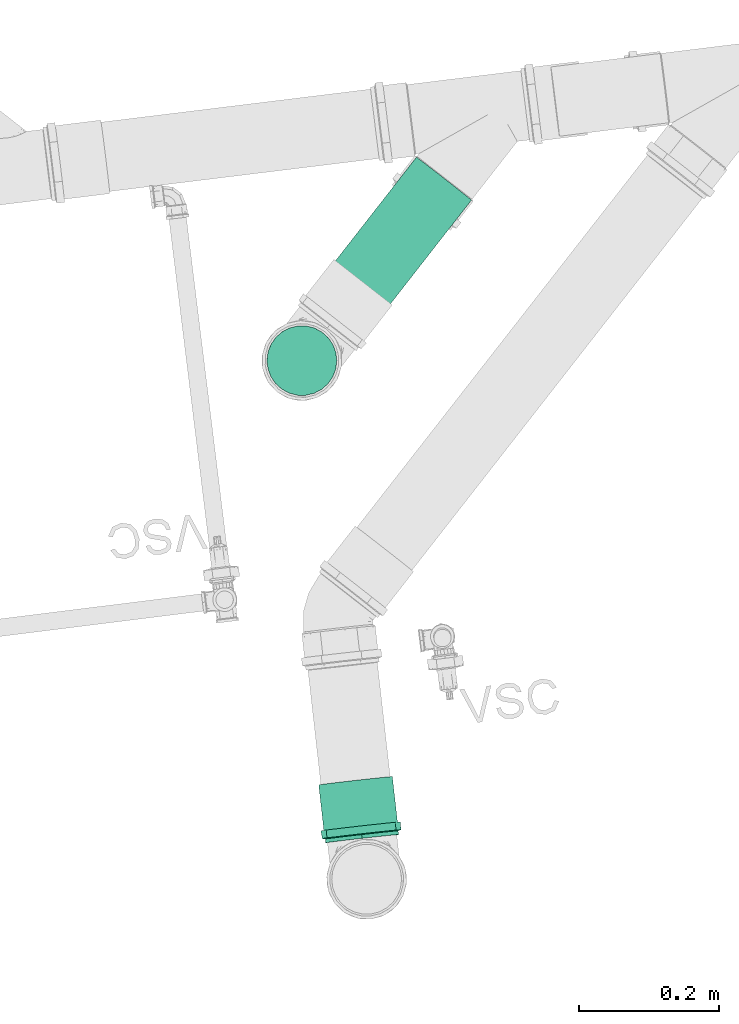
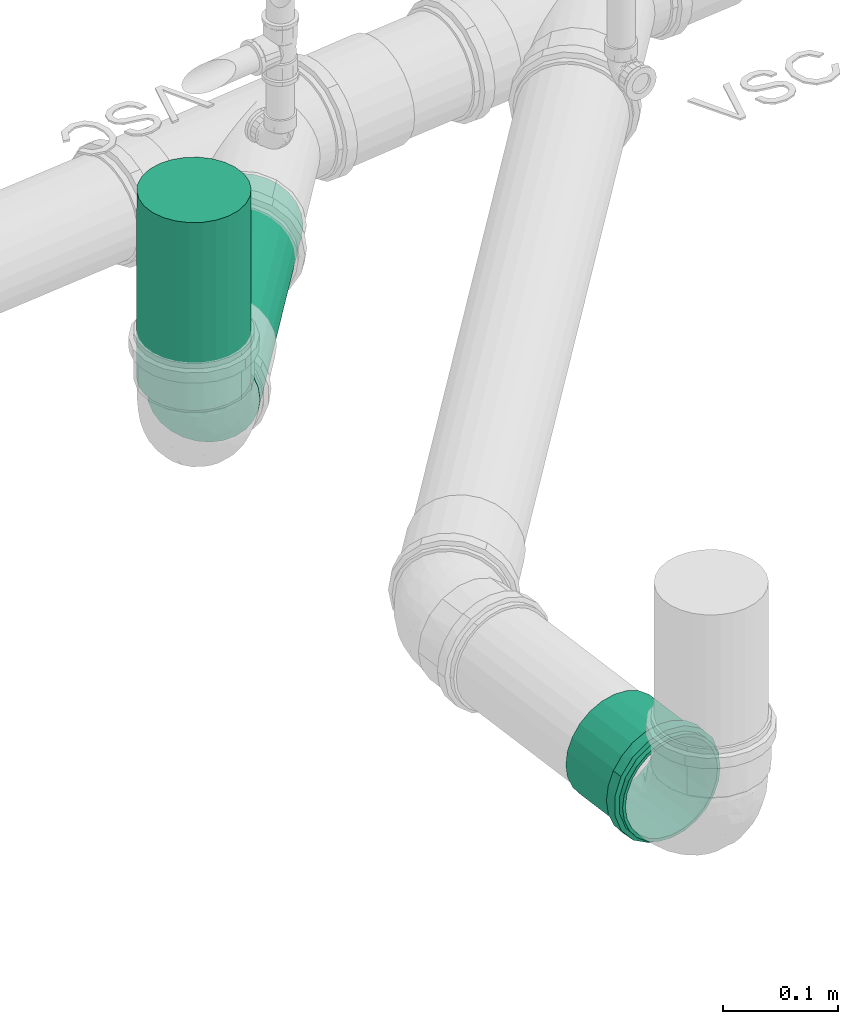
# One storey, part 27 of 97: 2 flow segments, 1 flow fitting.
"""IFC2X3 building model written with IfcOpenShell, lengths in centimetres."""

from ifc_helpers import new_model, entity, si_unit, converted_unit, derived_unit, direction, frame, origin, origin_2d_with_axis, place, context, subcontext, project, spatial, circle, extrude, faceted_brep, source, transform, mapped, material, type_object, type_shapes, element, save


model = new_model("IFC2X3")

# Units and contexts
model_context = context("Model", 3, precision=0.001, world=origin(), true_north=direction((6.12303176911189e-17, 1.0)))
body_context = subcontext(model_context, "Body", "Model", "MODEL_VIEW")
ifc_project = project(units=[si_unit("LENGTHUNIT", "METRE", prefix="CENTI"), si_unit("AREAUNIT", "SQUARE_METRE"), si_unit("VOLUMEUNIT", "CUBIC_METRE"), converted_unit("PLANEANGLEUNIT", "DEGREE", entity("IfcRatioMeasure", 0.0174532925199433), si_unit("PLANEANGLEUNIT", "RADIAN"), dimensions=[0, 0, 0, 0, 0, 0, 0]), si_unit("MASSUNIT", "GRAM", prefix="KILO"), derived_unit("MASSDENSITYUNIT", [(si_unit("MASSUNIT", "GRAM", prefix="KILO"), 1), (si_unit("LENGTHUNIT", "METRE"), -3)]), derived_unit("MOMENTOFINERTIAUNIT", [(si_unit("LENGTHUNIT", "METRE"), 4)]), si_unit("TIMEUNIT", "SECOND"), si_unit("FREQUENCYUNIT", "HERTZ"), si_unit("THERMODYNAMICTEMPERATUREUNIT", "DEGREE_CELSIUS"), derived_unit("THERMALTRANSMITTANCEUNIT", [(si_unit("MASSUNIT", "GRAM", prefix="KILO"), 1), (si_unit("THERMODYNAMICTEMPERATUREUNIT", "KELVIN"), -1), (si_unit("TIMEUNIT", "SECOND"), -3)]), derived_unit("VOLUMETRICFLOWRATEUNIT", [(si_unit("LENGTHUNIT", "METRE"), 3), (si_unit("TIMEUNIT", "SECOND"), -1)]), si_unit("ELECTRICCURRENTUNIT", "AMPERE"), si_unit("ELECTRICVOLTAGEUNIT", "VOLT"), si_unit("POWERUNIT", "WATT"), si_unit("FORCEUNIT", "NEWTON", prefix="KILO"), si_unit("ILLUMINANCEUNIT", "LUX"), si_unit("LUMINOUSFLUXUNIT", "LUMEN"), si_unit("LUMINOUSINTENSITYUNIT", "CANDELA"), derived_unit("USERDEFINED", [(si_unit("MASSUNIT", "GRAM", prefix="KILO"), -1), (si_unit("LENGTHUNIT", "METRE"), -2), (si_unit("TIMEUNIT", "SECOND"), 3), (si_unit("LUMINOUSFLUXUNIT", "LUMEN"), 1)]), derived_unit("LINEARVELOCITYUNIT", [(si_unit("LENGTHUNIT", "METRE"), 1), (si_unit("TIMEUNIT", "SECOND"), -1)]), si_unit("PRESSUREUNIT", "PASCAL"), derived_unit("USERDEFINED", [(si_unit("LENGTHUNIT", "METRE"), -2), (si_unit("MASSUNIT", "GRAM", prefix="KILO"), 1), (si_unit("TIMEUNIT", "SECOND"), -2)]), derived_unit("LINEARFORCEUNIT", [(si_unit("MASSUNIT", "GRAM", prefix="KILO"), 1), (si_unit("LENGTHUNIT", "METRE"), 1), (si_unit("TIMEUNIT", "SECOND"), -2), (si_unit("LENGTHUNIT", "METRE"), -1)]), derived_unit("PLANARFORCEUNIT", [(si_unit("MASSUNIT", "GRAM", prefix="KILO"), 1), (si_unit("LENGTHUNIT", "METRE"), 1), (si_unit("TIMEUNIT", "SECOND"), -2), (si_unit("LENGTHUNIT", "METRE"), -2)])], contexts=[model_context])

# Site, building, storey
site_placement = place(None, origin())
site = spatial("IfcSite", under=ifc_project, at=site_placement, Name="Default", CompositionType="ELEMENT")
building_placement = place(site_placement, origin())
building = spatial("IfcBuilding", under=site, at=building_placement, Name="HIDROSSANITÁRIO", CompositionType="ELEMENT")
storey_placement = place(building_placement, frame((0.0, 0.0, -260.0)))
storey = spatial("IfcBuildingStorey", under=building, at=storey_placement, Name="TÉRREO-HID", CompositionType="ELEMENT", Elevation=-260.0)

# Flow segments
pipe_segment_type = type_object("IfcPipeSegmentType", Name="Tipos de tubos:Tubo - Esgoto - Série Normal", PredefinedType="NOTDEFINED")
flow_segment_1_placement = place(storey_placement, origin())
element("IfcFlowSegment", 1, at=flow_segment_1_placement, inside=storey, type_object=pipe_segment_type, Name="Tipos de tubos:Tubo - Esgoto - Série Normal", ObjectType="Tipos de tubos:Tubo - Esgoto - Série Normal", context=body_context, shape_type="SweptSolid", body=[
    extrude(circle(Radius=5.0, at=origin_2d_with_axis()), frame((-1498.65445323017, 2953.8205376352, -30.0255531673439), z_axis=(9.37874120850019e-05, -7.32316891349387e-05, 0.999999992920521), x_axis=(0.999999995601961, 0.0, -9.37874123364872e-05)), (0.0, 0.0, 1.0), 20.0259195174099),
])
flow_segment_2_placement = place(storey_placement, origin())
element("IfcFlowSegment", 2, at=flow_segment_2_placement, inside=storey, type_object=pipe_segment_type, Name="Tipos de tubos:Tubo - Esgoto - Série Normal", ObjectType="Tipos de tubos:Tubo - Esgoto - Série Normal", context=body_context, shape_type="SweptSolid", body=[
    extrude(circle(Radius=5.0, at=origin_2d_with_axis()), frame((-1495.0233767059, 2958.47083690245, -35.9255531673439), z_axis=(0.615405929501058, 0.788146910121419, -0.00999950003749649), x_axis=(0.78818631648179, -0.615436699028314, 0.0)), (0.0, 0.0, 1.0), 27.1548516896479),
])

# Flow fitting
ifc_material = material(Name="PVC Branco")
pipe_fitting_type = type_object("IfcPipeFittingType", Name="Luva Simples para Conexão - Serie Normal - Esgoto - MEP - Tigre:Standard", PredefinedType="NOTDEFINED", material=ifc_material)
shared_shape = source(origin(), body_context, "Body", "Brep", [
    faceted_brep([(1.77700000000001, 2.8725, -4.9753159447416), (1.77700000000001, 4.06232845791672, -4.06232845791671), (1.77700000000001, 2.65249999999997, -4.59426476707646), (1.77700000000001, 1.37303503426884, -5.12423650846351), (1.77700000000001, 1.48691541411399, -5.5492438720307), (1.77700000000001, 3.75120147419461, -3.75120147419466), (1.77700000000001, 4.9753159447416, -2.8725), (1.77700000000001, 4.59426476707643, -2.65250000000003), (1.77700000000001, 5.1242365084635, -1.37303503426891), (1.77700000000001, 5.5492438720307, -1.48691541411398), (1.77700000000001, 5.305, 0.0), (1.77700000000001, 5.745, 0.0), (1.77700000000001, 5.1242365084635, 1.3730350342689), (1.77700000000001, 5.54924387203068, 1.48691541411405), (1.77700000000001, 4.59426476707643, 2.65250000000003), (1.77700000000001, 4.97531594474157, 2.87250000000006), (1.77700000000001, 3.75120147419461, 3.75120147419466), (1.77700000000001, 4.06232845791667, 4.06232845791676), (1.77700000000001, 2.65249999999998, 4.59426476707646), (1.77700000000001, 2.87249999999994, 4.97531594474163), (1.77700000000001, 1.37303503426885, 5.12423650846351), (1.77700000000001, 1.48691541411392, 5.54924387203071), (1.77700000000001, 0.0, 5.305), (1.77700000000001, 0.0, 5.745), (1.77700000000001, -1.37303503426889, 5.1242365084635), (1.77700000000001, -1.48691541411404, 5.54924387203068), (1.77700000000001, -2.65250000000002, 4.59426476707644), (1.77700000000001, -2.87250000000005, 4.97531594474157), (1.77700000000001, -3.75120147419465, 3.75120147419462), (1.77700000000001, -4.06232845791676, 4.06232845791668), (1.77700000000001, -4.59426476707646, 2.65249999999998), (1.77700000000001, -4.97531594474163, 2.87249999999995), (1.77700000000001, -5.54924387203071, 1.48691541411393), (1.77700000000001, -5.12423650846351, 1.37303503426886), (1.77700000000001, -5.745, 0.0), (1.77700000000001, -5.305, 0.0), (1.77700000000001, -5.54924387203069, -1.486915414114), (1.77700000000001, -5.12423650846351, -1.37303503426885), (1.77700000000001, -4.97531594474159, -2.87250000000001), (1.77700000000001, -4.59426476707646, -2.65249999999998), (1.77700000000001, -4.06232845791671, -4.06232845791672), (1.77700000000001, -3.75120147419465, -3.75120147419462), (1.77700000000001, -2.87249999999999, -4.97531594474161), (1.77700000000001, -2.65250000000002, -4.59426476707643), (1.77700000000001, -1.48691541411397, -5.5492438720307), (1.77700000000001, -1.3730350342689, -5.1242365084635), (1.77700000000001, 0.0, -5.745), (1.77700000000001, 0.0, -5.305), (0.657000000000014, -1.93463887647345, 5.31665771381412), (0.657000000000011, -4.4007619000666, 3.69300957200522), (0.657000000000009, -4.89962626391, 2.82901737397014), (0.657000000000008, -5.39849062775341, 1.96502517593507), (0.657000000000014, -2.87216972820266, 4.97550661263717), (0.657000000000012, -3.63646581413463, 4.3342580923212), (0.657000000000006, -5.5717453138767, 0.982512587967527), (0.657000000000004, -5.745, 0.0), (0.657000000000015, -0.997108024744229, 5.65780881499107), (0.657000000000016, 0.998234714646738, 5.65761013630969), (0.657000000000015, 0.0005633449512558, 5.65770947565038), (0.657000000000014, 3.63732887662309, 4.33353383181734), (0.657000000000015, 1.93569761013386, 5.31627233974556), (0.657000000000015, 2.87316050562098, 4.97493454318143), (0.65700000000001, 5.39888184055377, 1.96395006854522), (0.657000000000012, 4.90018954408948, 2.82804159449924), (0.657000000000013, 4.40149724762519, 3.69213312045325), (0.657000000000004, 5.745, 0.0), (0.656999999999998, 4.40149724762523, -3.6921331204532), (0.657, 4.90018954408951, -2.82804159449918), (0.657000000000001, 5.39888184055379, -1.96395006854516), (0.656999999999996, 2.87316050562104, -4.9749345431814), (0.656999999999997, 3.63732887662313, -4.3335338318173), (0.656999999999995, 1.93569761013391, -5.31627233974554), (0.656999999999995, 0.998234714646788, -5.65761013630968), (0.656999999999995, -0.997108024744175, -5.65780881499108), (0.656999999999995, 0.000563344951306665, -5.65770947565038), (0.656999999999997, -3.6364658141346, -4.33425809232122), (0.656999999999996, -2.87216972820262, -4.9755066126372), (0.656999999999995, -1.9346388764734, -5.31665771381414), (0.657000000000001, -5.39849062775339, -1.96502517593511), (0.657, -4.89962626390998, -2.82901737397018), (0.656999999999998, -4.40076190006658, -3.69300957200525), (0.657000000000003, -5.5717453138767, -0.982512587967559), (8.35200000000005, 2.6525, -4.59426476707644), (8.35200000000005, 3.75120147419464, -3.75120147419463), (8.35200000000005, 2.49999999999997, -4.33012701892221), (8.35200000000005, 1.29409522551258, -4.82962913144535), (8.35200000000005, 1.37303503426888, -5.1242365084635), (8.35200000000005, 3.53553390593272, -3.53553390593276), (8.35200000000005, 4.59426476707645, -2.6525), (8.35200000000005, 4.33012701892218, -2.50000000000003), (8.35200000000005, 4.82962913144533, -1.29409522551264), (8.35200000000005, 5.12423650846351, -1.37303503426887), (8.35200000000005, 5.0, 0.0), (8.35200000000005, 5.305, 0.0), (8.35200000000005, 4.82962913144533, 1.29409522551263), (8.35200000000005, 5.12423650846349, 1.37303503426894), (8.35200000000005, 4.33012701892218, 2.50000000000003), (8.35200000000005, 4.59426476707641, 2.65250000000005), (8.35200000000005, 3.53553390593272, 3.53553390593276), (8.35200000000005, 3.75120147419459, 3.75120147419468), (8.35200000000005, 2.49999999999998, 4.33012701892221), (8.35200000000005, 2.65249999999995, 4.59426476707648), (8.35200000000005, 1.29409522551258, 4.82962913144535), (8.35200000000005, 1.37303503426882, 5.12423650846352), (8.35200000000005, 0.0, 5.0), (8.35200000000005, 0.0, 5.305), (8.35200000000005, -1.29409522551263, 4.82962913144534), (8.35200000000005, -1.37303503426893, 5.12423650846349), (8.35200000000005, -2.50000000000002, 4.33012701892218), (8.35200000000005, -2.65250000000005, 4.59426476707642), (8.35200000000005, -3.53553390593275, 3.53553390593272), (8.35200000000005, -3.75120147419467, 3.7512014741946), (8.35200000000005, -4.3301270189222, 2.49999999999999), (8.35200000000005, -4.59426476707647, 2.65249999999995), (8.35200000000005, -5.12423650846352, 1.37303503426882), (8.35200000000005, -4.82962913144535, 1.29409522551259), (8.35200000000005, -5.305, 0.0), (8.35200000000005, -5.0, 0.0), (8.35200000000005, -5.1242365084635, -1.37303503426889), (8.35200000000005, -4.82962913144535, -1.29409522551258), (8.35200000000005, -4.59426476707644, -2.65250000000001), (8.35200000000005, -4.3301270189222, -2.49999999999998), (8.35200000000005, -3.75120147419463, -3.75120147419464), (8.35200000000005, -3.53553390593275, -3.53553390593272), (8.35200000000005, -2.65249999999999, -4.59426476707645), (8.35200000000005, -2.50000000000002, -4.33012701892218), (8.35200000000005, -1.37303503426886, -5.12423650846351), (8.35200000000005, -1.29409522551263, -4.82962913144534), (8.35200000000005, 0.0, -5.305), (8.35200000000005, 0.0, -5.0), (0.0, 2.49999999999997, -4.33012701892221), (0.0, 3.75120147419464, -3.75120147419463), (0.0, 2.6525, -4.59426476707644), (0.0, 1.29409522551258, -4.82962913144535), (0.0, 3.53553390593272, -3.53553390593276), (0.0, 4.59426476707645, -2.6525), (0.0, 4.33012701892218, -2.50000000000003), (0.0, 4.82962913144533, -1.29409522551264), (0.0, 5.12423650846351, -1.37303503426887), (0.0, 5.0, 0.0), (0.0, 5.305, 0.0), (0.0, 4.82962913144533, 1.29409522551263), (0.0, 5.12423650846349, 1.37303503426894), (0.0, 4.33012701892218, 2.50000000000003), (0.0, 4.59426476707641, 2.65250000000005), (0.0, 3.53553390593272, 3.53553390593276), (0.0, 3.75120147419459, 3.75120147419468), (0.0, 2.49999999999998, 4.33012701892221), (0.0, 2.65249999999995, 4.59426476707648), (0.0, 1.29409522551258, 4.82962913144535), (0.0, 1.37303503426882, 5.12423650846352), (0.0, 0.0, 5.0), (0.0, 0.0, 5.305), (0.0, -1.29409522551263, 4.82962913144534), (0.0, -1.37303503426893, 5.12423650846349), (0.0, -2.50000000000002, 4.33012701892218), (0.0, -2.65250000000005, 4.59426476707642), (0.0, -3.53553390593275, 3.53553390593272), (0.0, -3.75120147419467, 3.7512014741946), (0.0, -4.3301270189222, 2.49999999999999), (0.0, -4.59426476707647, 2.65249999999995), (0.0, -5.12423650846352, 1.37303503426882), (0.0, -4.82962913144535, 1.29409522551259), (0.0, -5.305, 0.0), (0.0, -5.0, 0.0), (0.0, -5.1242365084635, -1.37303503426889), (0.0, -4.82962913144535, -1.29409522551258), (0.0, -4.59426476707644, -2.65250000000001), (0.0, -4.3301270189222, -2.49999999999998), (0.0, -3.75120147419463, -3.75120147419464), (0.0, -3.53553390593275, -3.53553390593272), (0.0, -2.65249999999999, -4.59426476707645), (0.0, -2.50000000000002, -4.33012701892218), (0.0, -1.37303503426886, -5.12423650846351), (0.0, -1.29409522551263, -4.82962913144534), (0.0, 0.0, -5.305), (0.0, 0.0, -5.0), (0.0, 1.37303503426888, -5.1242365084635), (0.537000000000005, -5.305, 0.0), (0.537000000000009, -4.98507989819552, 1.81438788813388), (0.537000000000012, -4.06390540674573, 3.4099410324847), (0.537000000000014, -2.65258010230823, 4.59421851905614), (0.537000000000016, -0.921325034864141, 5.22438371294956), (0.537000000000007, 5.1449924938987, 0.907324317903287), (0.537000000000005, 5.305, 0.0), (0.537000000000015, 2.65233979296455, 4.59435725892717), (0.537000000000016, 0.921051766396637, 5.22443189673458), (0.537000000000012, 4.06372704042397, 3.41015359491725), (0.537000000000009, 4.9849849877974, 1.81464863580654), (0.537000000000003, 5.14499249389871, -0.907324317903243), (0.537000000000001, 4.98498498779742, -1.81464863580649), (0.536999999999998, 4.063727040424, -3.41015359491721), (0.536999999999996, 2.6523397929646, -4.59435725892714), (0.536999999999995, 0.921051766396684, -5.22443189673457), (0.536999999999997, -2.6525801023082, -4.59421851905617), (0.536999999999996, -0.921325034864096, -5.22438371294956), (0.536999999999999, -4.0639054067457, -3.40994103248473), (0.537000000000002, -4.98507989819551, -1.81438788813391), (5.0, -5.0, 0.0), (5.0, 5.0, 0.0)], [[[0, 1, 2]], [[0, 2, 3]], [[3, 4, 0]], [[2, 1, 5]], [[6, 5, 1]], [[5, 6, 7]], [[7, 6, 8]], [[9, 8, 6]], [[9, 10, 8]], [[10, 9, 11]], [[12, 10, 11]], [[11, 13, 12]], [[12, 13, 14]], [[15, 14, 13]], [[14, 15, 16]], [[16, 15, 17]], [[18, 16, 17]], [[17, 19, 18]], [[18, 19, 20]], [[21, 20, 19]], [[20, 21, 22]], [[22, 21, 23]], [[22, 23, 24]], [[24, 23, 25]], [[24, 25, 26]], [[27, 26, 25]], [[27, 28, 26]], [[28, 27, 29]], [[29, 30, 28]], [[31, 30, 29]], [[30, 31, 32]], [[32, 33, 30]], [[34, 33, 32]], [[34, 35, 33]], [[36, 35, 34]], [[36, 37, 35]], [[37, 36, 38]], [[38, 39, 37]], [[39, 38, 40]], [[39, 40, 41]], [[40, 42, 41]], [[41, 42, 43]], [[43, 42, 44]], [[44, 45, 43]], [[46, 45, 44]], [[4, 47, 46]], [[46, 47, 45]], [[4, 3, 47]], [[48, 27, 25]], [[31, 29, 49]], [[31, 49, 50, 51]], [[52, 53, 27]], [[32, 51, 54]], [[54, 55, 34]], [[54, 34, 32]], [[25, 56, 48]], [[49, 29, 53]], [[23, 57, 58, 56]], [[59, 19, 17]], [[27, 53, 29]], [[48, 52, 27]], [[31, 51, 32]], [[57, 23, 21]], [[60, 19, 61]], [[15, 62, 63, 64]], [[19, 60, 21]], [[15, 13, 62]], [[17, 64, 59]], [[57, 21, 60]], [[23, 56, 25]], [[15, 64, 17]], [[13, 65, 62]], [[13, 11, 65]], [[59, 61, 19]], [[65, 11, 9]], [[6, 1, 66]], [[6, 66, 67, 68]], [[69, 70, 0]], [[68, 65, 9]], [[71, 69, 0]], [[71, 0, 4]], [[4, 72, 71]], [[66, 1, 70]], [[46, 73, 74, 72]], [[75, 76, 42]], [[0, 70, 1]], [[75, 42, 40]], [[6, 68, 9]], [[73, 46, 44]], [[77, 42, 76]], [[38, 78, 79, 80]], [[42, 77, 44]], [[38, 36, 78]], [[40, 80, 75]], [[73, 44, 77]], [[46, 72, 4]], [[38, 80, 40]], [[81, 78, 36]], [[55, 81, 34]], [[34, 81, 36]], [[82, 83, 84]], [[82, 84, 85]], [[85, 86, 82]], [[84, 83, 87]], [[88, 87, 83]], [[87, 88, 89]], [[89, 88, 90]], [[91, 90, 88]], [[91, 92, 90]], [[92, 91, 93]], [[94, 92, 93]], [[93, 95, 94]], [[94, 95, 96]], [[97, 96, 95]], [[96, 97, 98]], [[98, 97, 99]], [[100, 98, 99]], [[99, 101, 100]], [[100, 101, 102]], [[103, 102, 101]], [[102, 103, 104]], [[104, 103, 105]], [[104, 105, 106]], [[106, 105, 107]], [[106, 107, 108]], [[109, 108, 107]], [[110, 108, 109]], [[110, 109, 111]], [[111, 112, 110]], [[113, 112, 111]], [[112, 113, 114]], [[114, 115, 112]], [[116, 115, 114]], [[116, 117, 115]], [[118, 117, 116]], [[118, 119, 117]], [[119, 118, 120]], [[120, 121, 119]], [[121, 120, 122]], [[121, 122, 123]], [[122, 124, 123]], [[125, 123, 124]], [[125, 124, 126]], [[126, 127, 125]], [[128, 127, 126]], [[86, 129, 128]], [[128, 129, 127]], [[86, 85, 129]], [[130, 131, 132]], [[133, 130, 132]], [[134, 131, 130]], [[131, 134, 135]], [[136, 135, 134]], [[137, 135, 136]], [[135, 137, 138]], [[137, 139, 138]], [[140, 138, 139]], [[140, 139, 141]], [[141, 142, 140]], [[143, 142, 141]], [[142, 143, 144]], [[145, 144, 143]], [[146, 144, 145]], [[146, 145, 147]], [[147, 148, 146]], [[149, 148, 147]], [[148, 149, 150]], [[151, 150, 149]], [[152, 150, 151]], [[153, 152, 151]], [[154, 152, 153]], [[155, 154, 153]], [[154, 155, 156]], [[156, 155, 157]], [[158, 156, 157]], [[157, 159, 158]], [[158, 159, 160]], [[161, 160, 159]], [[159, 162, 161]], [[161, 162, 163]], [[162, 164, 163]], [[163, 164, 165]], [[164, 166, 165]], [[167, 165, 166]], [[166, 168, 167]], [[169, 167, 168]], [[170, 169, 168]], [[170, 171, 169]], [[171, 170, 172]], [[173, 171, 172]], [[172, 174, 173]], [[173, 174, 175]], [[174, 176, 175]], [[176, 133, 177]], [[175, 176, 177]], [[132, 177, 133]], [[161, 178, 179]], [[158, 180, 181]], [[179, 180, 160]], [[181, 182, 154]], [[179, 160, 161]], [[161, 163, 178]], [[35, 116, 114, 33]], [[183, 184, 140]], [[181, 156, 158]], [[158, 160, 180]], [[181, 154, 156]], [[182, 152, 154]], [[183, 140, 142]], [[185, 150, 186]], [[187, 146, 185]], [[142, 188, 183]], [[187, 188, 144]], [[185, 148, 150]], [[150, 152, 186]], [[187, 144, 146]], [[146, 148, 185]], [[188, 142, 144]], [[186, 152, 182]], [[189, 190, 138]], [[131, 191, 192]], [[190, 191, 135]], [[192, 193, 177]], [[190, 135, 138]], [[184, 189, 140]], [[192, 132, 131]], [[131, 135, 191]], [[192, 177, 132]], [[193, 175, 177]], [[140, 189, 138]], [[194, 173, 195]], [[196, 169, 194]], [[165, 197, 178]], [[196, 197, 167]], [[165, 178, 163]], [[35, 37, 118, 116]], [[194, 171, 173]], [[173, 175, 195]], [[196, 167, 169]], [[169, 171, 194]], [[197, 165, 167]], [[195, 175, 193]], [[115, 117, 198, 164, 162]], [[155, 108, 110, 157]], [[110, 112, 159, 157]], [[112, 115, 162, 159]], [[106, 108, 155, 153]], [[153, 151, 104, 106]], [[102, 104, 151, 149]], [[102, 149, 147, 100]], [[141, 94, 96, 143]], [[96, 98, 145, 143]], [[98, 100, 147, 145]], [[92, 94, 141, 139, 199]], [[199, 139, 137, 90, 92]], [[87, 89, 136, 134]], [[134, 130, 84, 87]], [[89, 90, 137, 136]], [[85, 84, 130, 133]], [[133, 176, 129, 85]], [[127, 129, 176, 174]], [[127, 174, 172, 125]], [[166, 119, 121, 168]], [[121, 123, 170, 168]], [[123, 125, 172, 170]], [[117, 119, 166, 164, 198]], [[81, 178, 197]], [[190, 68, 67]], [[194, 75, 196]], [[193, 72, 74]], [[195, 77, 194]], [[79, 197, 196]], [[81, 55, 178]], [[192, 69, 71]], [[79, 78, 197]], [[194, 77, 76]], [[191, 66, 70]], [[80, 196, 75]], [[68, 190, 189]], [[74, 195, 193]], [[192, 71, 193]], [[190, 67, 191]], [[70, 192, 191]], [[65, 189, 184]], [[195, 73, 77]], [[193, 71, 72]], [[197, 78, 81]], [[191, 67, 66]], [[189, 65, 68]], [[196, 80, 79]], [[70, 69, 192]], [[194, 76, 75]], [[73, 195, 74]], [[65, 183, 62]], [[48, 56, 182]], [[58, 182, 56]], [[54, 51, 179]], [[59, 185, 61]], [[60, 186, 57]], [[53, 52, 181]], [[63, 187, 64]], [[58, 57, 186]], [[187, 63, 188]], [[186, 60, 185]], [[50, 49, 180]], [[185, 59, 187]], [[59, 64, 187]], [[182, 58, 186]], [[50, 179, 51]], [[54, 178, 55]], [[53, 180, 49]], [[63, 62, 188]], [[181, 48, 182]], [[183, 65, 184]], [[179, 50, 180]], [[178, 54, 179]], [[183, 188, 62]], [[180, 53, 181]], [[60, 61, 185]], [[48, 181, 52]], [[30, 33, 114, 113]], [[26, 28, 111, 109]], [[113, 111, 28, 30]], [[107, 24, 26, 109]], [[107, 105, 22, 24]], [[18, 20, 103, 101]], [[99, 16, 18, 101]], [[12, 14, 97, 95]], [[99, 97, 14, 16]], [[10, 12, 95, 93]], [[103, 20, 22, 105]], [[91, 8, 10, 93]], [[88, 7, 8, 91]], [[82, 86, 3, 2]], [[83, 5, 7, 88]], [[2, 5, 83, 82]], [[86, 128, 47, 3]], [[43, 45, 126, 124]], [[122, 41, 43, 124]], [[37, 39, 120, 118]], [[122, 120, 39, 41]], [[126, 45, 47, 128]]]),
])
type_shapes(pipe_fitting_type, [shared_shape])
flow_fitting_placement = place(storey_placement, frame((-1490.03393535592, 2885.36616484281, -35.2232429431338), z_axis=(0.993700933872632, 0.112064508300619, 0.0), x_axis=(-0.112058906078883, 0.993651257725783, -0.00999897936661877)))
element("IfcFlowFitting", 3, at=flow_fitting_placement, inside=storey, type_object=pipe_fitting_type, material=ifc_material, Name="Luva Simples para Conexão - Serie Normal - Esgoto - MEP - Tigre:Standard", ObjectType="Luva Simples para Conexão - Serie Normal - Esgoto - MEP - Tigre:Standard", context=body_context, shape_type="MappedRepresentation", body=[
    mapped(shared_shape, transform((0.0, 0.0, 0.0), scale=1.0)),
])

save(model, "model.ifc")
